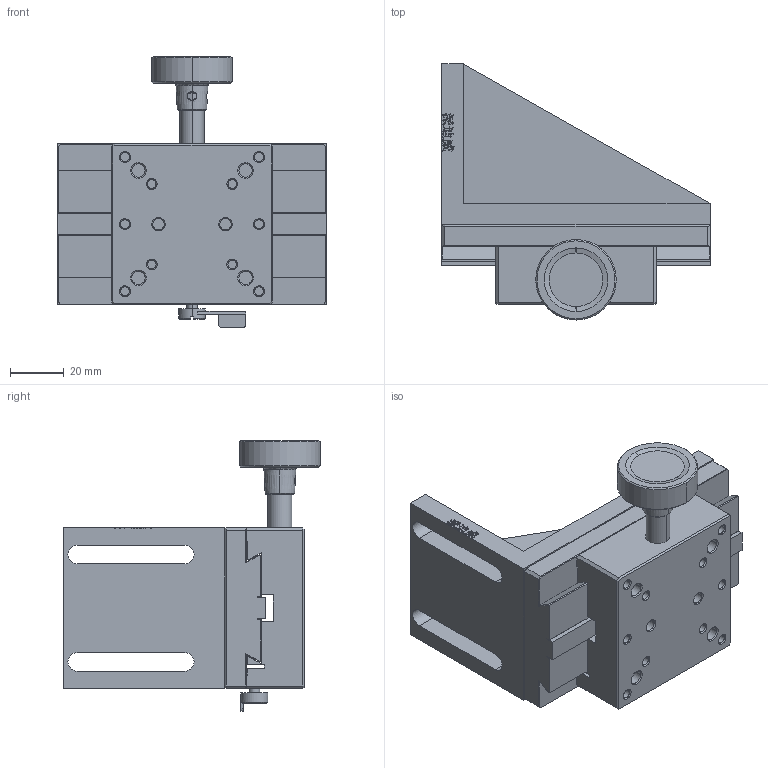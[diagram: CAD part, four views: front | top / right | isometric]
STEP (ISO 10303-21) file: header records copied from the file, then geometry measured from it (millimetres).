
FILE_DESCRIPTION (( 'STEP AP214' ), '1' );
FILE_NAME ('PT-DZ60-100.STEP', '2022-09-17T02:51:39', ( '' ), ( '' ), 'SwSTEP 2.0', 'SolidWorks 2017', '' );
FILE_SCHEMA (( 'AUTOMOTIVE_DESIGN' ));
Length unit declared in the file: millimetre
Products named in the file (6): PT-DZ60-100; MANIFOLD_SOLID_BREP_HT; LWZ60-L100; 60-100-DZ_1; SB; LWX60-150_ASM_5_ASM
Assembly tree (5 placements, depth 3):
  PT-DZ60-100
    LWX60-150_ASM_5_ASM
      60-100-DZ_1
    MANIFOLD_SOLID_BREP_HT
    SB
    LWZ60-L100
Bounding box: 100 x 95.5 x 101 mm (x, y, z)
Volume: 229530.5 mm3; surface area: 67929.1 mm2
Topology: 4 solids, 6 shells, 730 faces, 1856 edges, 1196 vertices
Faces by surface type: plane 382, bspline 162, cylinder 109, cone 77
Entity records: 29073 total; most frequent: CARTESIAN_POINT 12064, ORIENTED_EDGE 3704, DIRECTION 2977, EDGE_CURVE 1852, VECTOR 1207, LINE 1207, VERTEX_POINT 1196, AXIS2_PLACEMENT_3D 885
